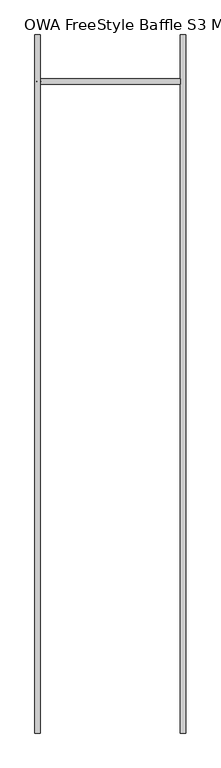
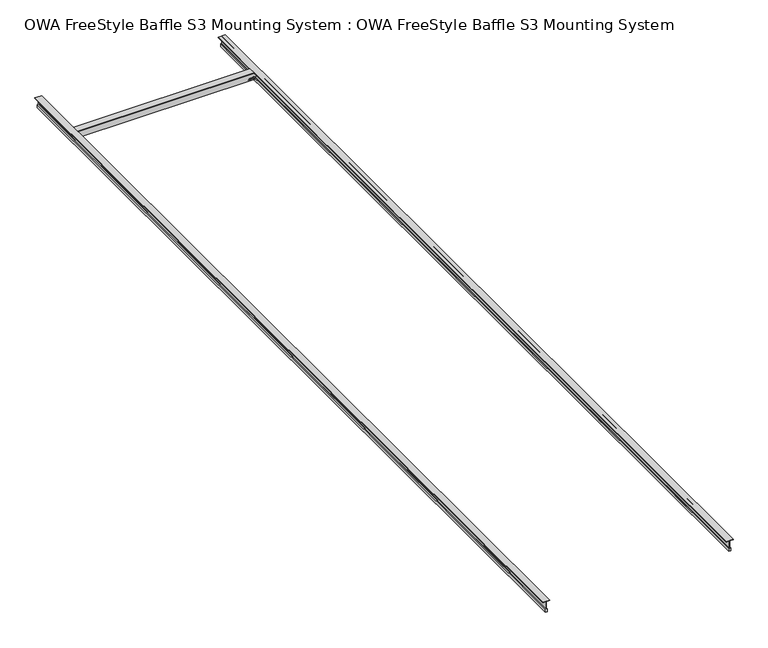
"""IFC4 building model written with IfcOpenShell, lengths in millimetres: proxy geometry, OWA FreeStyle Baffle S3 Mounting System : OWA FreeStyle Baffle S3 Mounting System."""

from ifc_helpers import new_model, si_unit, point, frame, frame_2d, origin, place, context, project, spatial, polyline, circle_curve, trimmed, segment, composite_curve, outline, extrude, source, transform, mapped, element, save
from ifc_brep_helpers import plane_surface, cylinder_surface, revolved_surface, advanced_brep


def owa_freestyle_baffle_s3_mounting_system_owa_freestyle_baffle_053d8222(model_context):
    return source(origin(), model_context, "Body", "SolidModel", [
        advanced_brep(
        [(-733.95, -201.5, 498.8), (-733.95, -201.5, 496.0), (-735.45, -201.5, 494.5), (-742.8857864, -201.5, 494.5), (-744.8857864, -201.5, 492.5), (-745.7, -201.5, 492.5), (-745.7, -201.5, 475.5), (-744.85, -201.5, 475.5), (-741.35, -201.5, 479.0), (-735.65, -201.5, 479.0), (-734.75, -201.5, 478.1), (-725.45, -201.5, 478.1), (-720.4764351, -201.5, 472.5865295), (-721.1954506, -201.5, 471.0754978), (-723.7247963, -201.5, 468.5461521), (-726.2283497, -201.5, 471.0497055), (-735.9464466, -201.5, 471.0497055), (-738.45, -201.5, 468.5461521), (-740.9535534, -201.5, 471.0497055), (-742.75, -201.5, 471.0497055), (-742.75, -201.5, 467.4497055), (-124.25, -201.5, 467.4497055), (-124.25, -201.5, 471.0497055), (-126.0464466, -201.5, 471.0497055), (-128.55, -201.5, 468.5461521), (-131.0535534, -201.5, 471.0497055), (-140.7716503, -201.5, 471.0497055), (-143.2752037, -201.5, 468.5461521), (-145.8045494, -201.5, 471.0754978), (-146.5235649, -201.5, 472.5865295), (-141.55, -201.5, 478.1), (-132.25, -201.5, 478.1), (-131.35, -201.5, 479.0), (-125.65, -201.5, 479.0), (-122.15, -201.5, 475.5), (-121.3, -201.5, 475.5), (-121.3, -201.5, 492.5), (-122.1142136, -201.5, 492.5), (-124.1142136, -201.5, 494.5), (-131.55, -201.5, 494.5), (-133.05, -201.5, 496.0), (-133.05, -201.5, 498.8), (-133.05, -198.5, 498.8), (-133.05, -198.5, 496.0), (-131.55, -198.5, 494.5), (-124.1142136, -198.5, 494.5), (-122.1142136, -198.5, 492.5), (-121.3, -198.5, 492.5), (-121.3, -198.5, 475.5), (-122.15, -198.5, 475.5), (-125.65, -198.5, 479.0), (-131.35, -198.5, 479.0), (-132.25, -198.5, 478.1), (-141.55, -198.5, 478.1), (-146.5235649, -198.5, 472.5865295), (-145.8045494, -198.5, 471.0754978), (-143.2752037, -198.5, 468.5461521), (-140.7716503, -198.5, 471.0497055), (-131.0535534, -198.5, 471.0497055), (-128.55, -198.5, 468.5461521), (-126.0464466, -198.5, 471.0497055), (-124.25, -198.5, 471.0497055), (-124.25, -198.5, 467.4497055), (-742.75, -198.5, 467.4497055), (-742.75, -198.5, 471.0497055), (-740.9535534, -198.5, 471.0497055), (-738.45, -198.5, 468.5461521), (-735.9464466, -198.5, 471.0497055), (-726.2283497, -198.5, 471.0497055), (-723.7247963, -198.5, 468.5461521), (-721.1954506, -198.5, 471.0754978), (-720.4764351, -198.5, 472.5865295), (-725.45, -198.5, 478.1), (-734.75, -198.5, 478.1), (-735.65, -198.5, 479.0), (-741.35, -198.5, 479.0), (-744.85, -198.5, 475.5), (-745.7, -198.5, 475.5), (-745.7, -198.5, 492.5), (-744.8857864, -198.5, 492.5), (-742.8857864, -198.5, 494.5), (-735.45, -198.5, 494.5), (-733.95, -198.5, 496.0), (-733.95, -198.5, 498.8), (-733.95, -212.0, 498.8), (-133.05, -212.0, 498.8), (-133.05, -212.0, 500.0), (-733.95, -212.0, 500.0), (-733.95, -188.0, 498.8), (-733.95, -188.0, 500.0), (-133.05, -188.0, 500.0), (-133.05, -188.0, 498.8)],
        [
            (0, 1),
            (1, 2, circle_curve(frame((-735.45, -201.5, 496.0), z_axis=(0.0, 1.0, 0.0), x_axis=(1.0, 0.0, 0.0)), 1.5)),
            (2, 3),
            (3, 4),
            (4, 5),
            (5, 6),
            (6, 7),
            (7, 8),
            (8, 9),
            (9, 10),
            (10, 11),
            (11, 12, circle_curve(frame((-725.45, -201.5, 473.1), z_axis=(0.0, 1.0, 0.0), x_axis=(1.0, 0.0, 0.0)), 5.0)),
            (12, 13, circle_curve(frame((-722.9632175, -201.5, 472.8432648), z_axis=(0.0, 1.0, 0.0), x_axis=(1.0, 0.0, 0.0)), 2.5)),
            (13, 14),
            (14, 15),
            (15, 16),
            (16, 17),
            (17, 18),
            (18, 19),
            (19, 20),
            (20, 21),
            (21, 22),
            (22, 23),
            (23, 24),
            (24, 25),
            (25, 26),
            (26, 27),
            (27, 28),
            (28, 29, circle_curve(frame((-144.0367825, -201.5, 472.8432648), z_axis=(0.0, 1.0, 0.0), x_axis=(-1.0, 0.0, 0.0)), 2.5)),
            (29, 30, circle_curve(frame((-141.55, -201.5, 473.1), z_axis=(0.0, 1.0, 0.0), x_axis=(-1.0, 0.0, 0.0)), 5.0)),
            (30, 31),
            (31, 32),
            (32, 33),
            (33, 34),
            (34, 35),
            (35, 36),
            (36, 37),
            (37, 38),
            (38, 39),
            (39, 40, circle_curve(frame((-131.55, -201.5, 496.0), z_axis=(0.0, 1.0, 0.0), x_axis=(-1.0, 0.0, 0.0)), 1.5)),
            (40, 41),
            (41, 0),
            (42, 43),
            (43, 44, circle_curve(frame((-131.55, -198.5, 496.0), z_axis=(0.0, -1.0, 0.0), x_axis=(-1.0, 0.0, 0.0)), 1.5)),
            (44, 45),
            (45, 46),
            (46, 47),
            (47, 48),
            (48, 49),
            (49, 50),
            (50, 51),
            (51, 52),
            (52, 53),
            (53, 54, circle_curve(frame((-141.55, -198.5, 473.1), z_axis=(0.0, -1.0, 0.0), x_axis=(-1.0, 0.0, 0.0)), 5.0)),
            (54, 55, circle_curve(frame((-144.0367825, -198.5, 472.8432648), z_axis=(0.0, -1.0, 0.0), x_axis=(-1.0, 0.0, 0.0)), 2.5)),
            (55, 56),
            (56, 57),
            (57, 58),
            (58, 59),
            (59, 60),
            (60, 61),
            (61, 62),
            (62, 63),
            (63, 64),
            (64, 65),
            (65, 66),
            (66, 67),
            (67, 68),
            (68, 69),
            (69, 70),
            (70, 71, circle_curve(frame((-722.9632175, -198.5, 472.8432648), z_axis=(0.0, -1.0, 0.0), x_axis=(1.0, 0.0, 0.0)), 2.5)),
            (71, 72, circle_curve(frame((-725.45, -198.5, 473.1), z_axis=(0.0, -1.0, 0.0), x_axis=(1.0, 0.0, 0.0)), 5.0)),
            (72, 73),
            (73, 74),
            (74, 75),
            (75, 76),
            (76, 77),
            (77, 78),
            (78, 79),
            (79, 80),
            (80, 81),
            (81, 82, circle_curve(frame((-735.45, -198.5, 496.0), z_axis=(0.0, -1.0, 0.0), x_axis=(1.0, 0.0, 0.0)), 1.5)),
            (82, 83),
            (83, 42),
            (84, 85),
            (85, 86),
            (86, 87),
            (87, 84),
            (88, 89),
            (89, 90),
            (90, 91),
            (91, 88),
            (84, 0),
            (41, 85),
            (91, 42),
            (83, 88),
            (20, 63),
            (62, 21),
            (86, 90),
            (89, 87),
            (82, 1),
            (81, 2),
            (80, 3),
            (79, 4),
            (78, 5),
            (77, 6),
            (76, 7),
            (75, 8),
            (74, 9),
            (73, 10),
            (72, 11),
            (71, 12),
            (70, 13),
            (69, 14),
            (68, 15),
            (67, 16),
            (66, 17),
            (65, 18),
            (64, 19),
            (61, 22),
            (60, 23),
            (59, 24),
            (58, 25),
            (57, 26),
            (56, 27),
            (55, 28),
            (54, 29),
            (53, 30),
            (52, 31),
            (51, 32),
            (50, 33),
            (49, 34),
            (48, 35),
            (47, 36),
            (46, 37),
            (45, 38),
            (44, 39),
            (43, 40),
        ],
        [
            plane_surface(frame((-733.95, -201.5, 496.0), z_axis=(0.0, -1.0, 0.0), x_axis=(0.0, 0.0, -1.0))),
            plane_surface(frame((-733.95, -198.5, 496.0), z_axis=(0.0, 1.0, 0.0), x_axis=(0.0, 0.0, 1.0))),
            plane_surface(frame((-133.0, -212.0, 498.8), z_axis=(0.0, -1.0, 0.0), x_axis=(1.0, 0.0, 0.0))),
            plane_surface(frame((-133.0, -188.0, 498.8), z_axis=(0.0, 1.0, 0.0), x_axis=(-1.0, 0.0, 0.0))),
            plane_surface(frame((-733.95, -212.0, 498.8), z_axis=(0.0, 0.0, -1.0), x_axis=(0.0, 1.0, 0.0))),
            plane_surface(frame((-742.75, -201.5, 467.4497055), z_axis=(0.0, 0.0, -1.0), x_axis=(0.0, 1.0, 0.0))),
            plane_surface(frame((-133.05, -212.0, 500.0), z_axis=(0.0, 0.0, 1.0), x_axis=(0.0, 1.0, 0.0))),
            plane_surface(frame((-733.95, -201.5, 498.8), z_axis=(-1.0, 0.0, 0.0), x_axis=(0.0, 1.0, 0.0))),
            revolved_surface(polyline([(-733.95, -198.5, 496.0), (-733.95, -201.5, 496.0)]), (-735.45, -198.5, 496.0), (0.0, 1.0, 0.0)),
            plane_surface(frame((-735.45, -201.5, 494.5), z_axis=(0.0, 0.0, 1.0), x_axis=(0.0, 1.0, 0.0))),
            plane_surface(frame((-742.8857864, -201.5, 494.5), z_axis=(-0.7071067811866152, 0.0, 0.7071067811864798), x_axis=(0.0, 1.0, 0.0))),
            plane_surface(frame((-744.8857864, -201.5, 492.5), z_axis=(0.0, 0.0, 1.0), x_axis=(0.0, 1.0, 0.0))),
            plane_surface(frame((-745.7, -201.5, 492.5), z_axis=(-1.0, 0.0, 0.0), x_axis=(0.0, 1.0, 0.0))),
            plane_surface(frame((-745.7, -201.5, 475.5), z_axis=(0.0, 0.0, -1.0), x_axis=(0.0, 1.0, 0.0))),
            plane_surface(frame((-744.85, -201.5, 475.5), z_axis=(0.707106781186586, 0.0, -0.707106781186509), x_axis=(0.0, 1.0, 0.0))),
            plane_surface(frame((-741.35, -201.5, 479.0), z_axis=(0.0, 0.0, -1.0), x_axis=(0.0, 1.0, 0.0))),
            plane_surface(frame((-735.65, -201.5, 479.0), z_axis=(-0.707106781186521, 0.0, -0.7071067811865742), x_axis=(0.0, 1.0, 0.0))),
            plane_surface(frame((-734.75, -201.5, 478.1), z_axis=(0.0, 0.0, -1.0), x_axis=(0.0, 1.0, 0.0))),
            revolved_surface(polyline([(-720.45, -198.5, 473.1), (-720.45, -201.5, 473.1)]), (-725.45, -198.5, 473.1), (0.0, 1.0, 0.0)),
            revolved_surface(polyline([(-720.4632175, -198.5, 472.8432648), (-720.4632175, -201.5, 472.8432648)]), (-722.9632175, -198.5, 472.8432648), (0.0, 1.0, 0.0)),
            plane_surface(frame((-721.1954506, -201.5, 471.0754978), z_axis=(-0.707106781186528, 0.0, 0.7071067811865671), x_axis=(0.0, 1.0, 0.0))),
            plane_surface(frame((-723.7247963, -201.5, 468.5461521), z_axis=(0.7071067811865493, 0.0, 0.7071067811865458), x_axis=(0.0, 1.0, 0.0))),
            plane_surface(frame((-726.2283497, -201.5, 471.0497055), z_axis=(0.0, 0.0, 1.0), x_axis=(0.0, 1.0, 0.0))),
            plane_surface(frame((-735.9464466, -201.5, 471.0497055), z_axis=(-0.7071067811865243, 0.0, 0.7071067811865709), x_axis=(0.0, 1.0, 0.0))),
            plane_surface(frame((-738.45, -201.5, 468.5461521), z_axis=(0.7071067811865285, 0.0, 0.7071067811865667), x_axis=(0.0, 1.0, 0.0))),
            plane_surface(frame((-740.9535534, -201.5, 471.0497055), z_axis=(0.0, 0.0, 1.0), x_axis=(0.0, 1.0, 0.0))),
            plane_surface(frame((-742.75, -201.5, 471.0497055), z_axis=(-1.0, 0.0, 0.0), x_axis=(0.0, 1.0, 0.0))),
            plane_surface(frame((-124.25, -201.5, 467.4497055), z_axis=(1.0, 0.0, 0.0), x_axis=(0.0, 1.0, 0.0))),
            plane_surface(frame((-124.25, -201.5, 471.0497055), z_axis=(0.0, 0.0, 1.0), x_axis=(0.0, 1.0, 0.0))),
            plane_surface(frame((-126.0464466, -201.5, 471.0497055), z_axis=(-0.7071067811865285, 0.0, 0.7071067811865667), x_axis=(0.0, 1.0, 0.0))),
            plane_surface(frame((-128.55, -201.5, 468.5461521), z_axis=(0.7071067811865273, 0.0, 0.7071067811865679), x_axis=(0.0, 1.0, 0.0))),
            plane_surface(frame((-131.0535534, -201.5, 471.0497055), z_axis=(0.0, 0.0, 1.0), x_axis=(0.0, 1.0, 0.0))),
            plane_surface(frame((-140.7716503, -201.5, 471.0497055), z_axis=(-0.7071067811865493, 0.0, 0.7071067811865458), x_axis=(0.0, 1.0, 0.0))),
            plane_surface(frame((-143.2752037, -201.5, 468.5461521), z_axis=(0.7071067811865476, 0.0, 0.7071067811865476), x_axis=(0.0, 1.0, 0.0))),
            revolved_surface(polyline([(-146.5367825, -198.5, 472.8432648), (-146.5367825, -201.5, 472.8432648)]), (-144.0367825, -198.5, 472.8432648), (0.0, 1.0, 0.0)),
            revolved_surface(polyline([(-146.55, -198.5, 473.1), (-146.55, -201.5, 473.1)]), (-141.55, -198.5, 473.1), (0.0, 1.0, 0.0)),
            plane_surface(frame((-141.55, -201.5, 478.1), z_axis=(0.0, 0.0, -1.0), x_axis=(0.0, 1.0, 0.0))),
            plane_surface(frame((-132.25, -201.5, 478.1), z_axis=(0.707106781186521, 0.0, -0.7071067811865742), x_axis=(0.0, 1.0, 0.0))),
            plane_surface(frame((-131.35, -201.5, 479.0), z_axis=(0.0, 0.0, -1.0), x_axis=(0.0, 1.0, 0.0))),
            plane_surface(frame((-125.65, -201.5, 479.0), z_axis=(-0.7071067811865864, 0.0, -0.7071067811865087), x_axis=(0.0, 1.0, 0.0))),
            plane_surface(frame((-122.15, -201.5, 475.5), z_axis=(0.0, 0.0, -1.0), x_axis=(0.0, 1.0, 0.0))),
            plane_surface(frame((-121.3, -201.5, 475.5), z_axis=(1.0, 0.0, 0.0), x_axis=(0.0, 1.0, 0.0))),
            plane_surface(frame((-121.3, -201.5, 492.5), z_axis=(0.0, 0.0, 1.0), x_axis=(0.0, 1.0, 0.0))),
            plane_surface(frame((-122.1142136, -201.5, 492.5), z_axis=(0.7071067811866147, 0.0, 0.7071067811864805), x_axis=(0.0, 1.0, 0.0))),
            plane_surface(frame((-124.1142136, -201.5, 494.5), z_axis=(0.0, 0.0, 1.0), x_axis=(0.0, 1.0, 0.0))),
            revolved_surface(polyline([(-133.05, -198.5, 496.0), (-133.05, -201.5, 496.0)]), (-131.55, -198.5, 496.0), (0.0, 1.0, 0.0)),
            plane_surface(frame((-133.05, -201.5, 496.0), z_axis=(1.0, 0.0, 0.0), x_axis=(0.0, 1.0, 0.0))),
        ],
        [
            (0, [[1, 2, 3, 4, 5, 6, 7, 8, 9, 10, 11, 12, 13, 14, 15, 16, 17, 18, 19, 20, 21, 22, 23, 24, 25, 26, 27, 28, 29, 30, 31, 32, 33, 34, 35, 36, 37, 38, 39, 40, 41, 42]]),
            (1, [[43, 44, 45, 46, 47, 48, 49, 50, 51, 52, 53, 54, 55, 56, 57, 58, 59, 60, 61, 62, 63, 64, 65, 66, 67, 68, 69, 70, 71, 72, 73, 74, 75, 76, 77, 78, 79, 80, 81, 82, 83, 84]]),
            (2, [[85, 86, 87, 88]]),
            (3, [[89, 90, 91, 92]]),
            (4, [[-85, 93, -42, 94]]),
            (4, [[-92, 95, -84, 96]]),
            (5, [[-21, 97, -63, 98]]),
            (6, [[-87, 99, -90, 100]]),
            (7, [[-1, -93, -88, -100, -89, -96, -83, 101]]),
            (8, [[-2, -101, -82, 102]]),
            (9, [[-3, -102, -81, 103]]),
            (10, [[-4, -103, -80, 104]]),
            (11, [[-5, -104, -79, 105]]),
            (12, [[-6, -105, -78, 106]]),
            (13, [[-7, -106, -77, 107]]),
            (14, [[-8, -107, -76, 108]]),
            (15, [[-9, -108, -75, 109]]),
            (16, [[-10, -109, -74, 110]]),
            (17, [[-11, -110, -73, 111]]),
            (18, [[-12, -111, -72, 112]]),
            (19, [[-13, -112, -71, 113]]),
            (20, [[-14, -113, -70, 114]]),
            (21, [[-15, -114, -69, 115]]),
            (22, [[-16, -115, -68, 116]]),
            (23, [[-17, -116, -67, 117]]),
            (24, [[-18, -117, -66, 118]]),
            (25, [[-19, -118, -65, 119]]),
            (26, [[-20, -119, -64, -97]]),
            (27, [[-22, -98, -62, 120]]),
            (28, [[-23, -120, -61, 121]]),
            (29, [[-24, -121, -60, 122]]),
            (30, [[-25, -122, -59, 123]]),
            (31, [[-26, -123, -58, 124]]),
            (32, [[-27, -124, -57, 125]]),
            (33, [[-28, -125, -56, 126]]),
            (34, [[-29, -126, -55, 127]]),
            (35, [[-30, -127, -54, 128]]),
            (36, [[-31, -128, -53, 129]]),
            (37, [[-32, -129, -52, 130]]),
            (38, [[-33, -130, -51, 131]]),
            (39, [[-34, -131, -50, 132]]),
            (40, [[-35, -132, -49, 133]]),
            (41, [[-36, -133, -48, 134]]),
            (42, [[-37, -134, -47, 135]]),
            (43, [[-38, -135, -46, 136]]),
            (44, [[-39, -136, -45, 137]]),
            (45, [[-40, -137, -44, 138]]),
            (46, [[-41, -138, -43, -95, -91, -99, -86, -94]]),
        ],
    ),
        advanced_brep(
        [(-750.95, -201.5, 493.7), (-750.95, -201.5, 481.3), (-748.8268982, -201.5, 479.3037921), (-747.2752053, -201.5, 477.844841), (-747.2752053, -201.5, 475.5), (-746.3, -201.5, 475.5), (-746.3, -201.5, 493.7), (-750.95, -198.5, 493.7), (-746.3, -198.5, 493.7), (-746.3, -198.5, 475.5), (-747.2752053, -198.5, 475.5), (-747.2752053, -198.5, 477.844841), (-748.8268982, -198.5, 479.3037921), (-750.95, -198.5, 481.3)],
        [
            (0, 1),
            (1, 2, circle_curve(frame((-748.95, -201.5, 481.3), z_axis=(0.0, -1.0, 0.0), x_axis=(1.0, 0.0, 0.0)), 2.0)),
            (2, 3, circle_curve(frame((-748.7369279, -201.5, 477.844841), z_axis=(0.0, 1.0, 0.0), x_axis=(-1.0, 0.0, 0.0)), 1.4617226)),
            (3, 4),
            (4, 5),
            (5, 6),
            (6, 0, circle_curve(frame((-748.625, -201.5, 493.7), z_axis=(0.0, -1.0, 0.0), x_axis=(-1.0, 0.0, 0.0)), 2.325)),
            (7, 8, circle_curve(frame((-748.625, -198.5, 493.7), z_axis=(0.0, 1.0, 0.0), x_axis=(-1.0, 0.0, 0.0)), 2.325)),
            (8, 9),
            (9, 10),
            (10, 11),
            (11, 12, circle_curve(frame((-748.7369279, -198.5, 477.844841), z_axis=(0.0, -1.0, 0.0), x_axis=(-1.0, 0.0, 0.0)), 1.4617226)),
            (12, 13, circle_curve(frame((-748.95, -198.5, 481.3), z_axis=(0.0, 1.0, 0.0), x_axis=(1.0, 0.0, 0.0)), 2.0)),
            (13, 7),
            (0, 7),
            (13, 1),
            (12, 2),
            (11, 3),
            (10, 4),
            (9, 5),
            (8, 6),
        ],
        [
            plane_surface(frame((-733.95, -201.5, 496.0), z_axis=(0.0, -1.0, 0.0), x_axis=(0.0, 0.0, -1.0))),
            plane_surface(frame((-733.95, -198.5, 496.0), z_axis=(0.0, 1.0, 0.0), x_axis=(0.0, 0.0, 1.0))),
            plane_surface(frame((-750.95, -201.5, 493.7), z_axis=(-1.0, 0.0, 0.0), x_axis=(0.0, 1.0, 0.0))),
            cylinder_surface(frame((-748.95, -200.0, 481.3), z_axis=(0.0, -1.0, 0.0), x_axis=(1.0, 0.0, 0.0)), 2.0),
            revolved_surface(polyline([(-750.1986505, -198.5, 477.844841), (-750.1986505, -201.5, 477.844841)]), (-748.7369279, -200.0, 477.844841), (0.0, 1.0, 0.0)),
            plane_surface(frame((-747.2752053, -201.5, 477.844841), z_axis=(-1.0, 0.0, 0.0), x_axis=(0.0, 1.0, 0.0))),
            plane_surface(frame((-747.2752053, -201.5, 475.5), z_axis=(0.0, 0.0, -1.0), x_axis=(0.0, 1.0, 0.0))),
            plane_surface(frame((-746.3, -201.5, 475.5), z_axis=(1.0, 0.0, 0.0), x_axis=(0.0, 1.0, 0.0))),
            cylinder_surface(frame((-748.625, -200.0, 493.7), z_axis=(0.0, -1.0, 0.0), x_axis=(-1.0, 0.0, 0.0)), 2.325),
        ],
        [
            (0, [[1, 2, 3, 4, 5, 6, 7]]),
            (1, [[8, 9, 10, 11, 12, 13, 14]]),
            (2, [[-1, 15, -14, 16]]),
            (3, [[-2, -16, -13, 17]]),
            (4, [[-3, -17, -12, 18]]),
            (5, [[-4, -18, -11, 19]]),
            (6, [[-5, -19, -10, 20]]),
            (7, [[-6, -20, -9, 21]]),
            (8, [[-7, -21, -8, -15]]),
        ],
    ),
        advanced_brep(
        [(-116.05, -201.5, 493.7), (-120.7, -201.5, 493.7), (-120.7, -201.5, 475.5), (-119.7247947, -201.5, 475.5), (-119.7247947, -201.5, 477.844841), (-118.1731018, -201.5, 479.3037921), (-116.05, -201.5, 481.3), (-116.05, -198.5, 493.7), (-116.05, -198.5, 481.3), (-118.1731018, -198.5, 479.3037921), (-119.7247947, -198.5, 477.844841), (-119.7247947, -198.5, 475.5), (-120.7, -198.5, 475.5), (-120.7, -198.5, 493.7)],
        [
            (0, 1, circle_curve(frame((-118.375, -201.5, 493.7), z_axis=(0.0, -1.0, 0.0), x_axis=(1.0, 0.0, 0.0)), 2.325)),
            (1, 2),
            (2, 3),
            (3, 4),
            (4, 5, circle_curve(frame((-118.2630721, -201.5, 477.844841), z_axis=(0.0, 1.0, 0.0), x_axis=(1.0, 0.0, 0.0)), 1.4617226)),
            (5, 6, circle_curve(frame((-118.05, -201.5, 481.3), z_axis=(0.0, -1.0, 0.0), x_axis=(-1.0, 0.0, 0.0)), 2.0)),
            (6, 0),
            (7, 8),
            (8, 9, circle_curve(frame((-118.05, -198.5, 481.3), z_axis=(0.0, 1.0, 0.0), x_axis=(-1.0, 0.0, 0.0)), 2.0)),
            (9, 10, circle_curve(frame((-118.2630721, -198.5, 477.844841), z_axis=(0.0, -1.0, 0.0), x_axis=(1.0, 0.0, 0.0)), 1.4617226)),
            (10, 11),
            (11, 12),
            (12, 13),
            (13, 7, circle_curve(frame((-118.375, -198.5, 493.7), z_axis=(0.0, 1.0, 0.0), x_axis=(1.0, 0.0, 0.0)), 2.325)),
            (0, 7),
            (13, 1),
            (12, 2),
            (11, 3),
            (10, 4),
            (9, 5),
            (8, 6),
        ],
        [
            plane_surface(frame((-733.95, -201.5, 496.0), z_axis=(0.0, -1.0, 0.0), x_axis=(0.0, 0.0, -1.0))),
            plane_surface(frame((-733.95, -198.5, 496.0), z_axis=(0.0, 1.0, 0.0), x_axis=(0.0, 0.0, 1.0))),
            cylinder_surface(frame((-118.375, -200.0, 493.7), z_axis=(0.0, -1.0, 0.0), x_axis=(1.0, 0.0, 0.0)), 2.325),
            plane_surface(frame((-120.7, -201.5, 493.7), z_axis=(-1.0, 0.0, 0.0), x_axis=(0.0, 1.0, 0.0))),
            plane_surface(frame((-120.7, -201.5, 475.5), z_axis=(0.0, 0.0, -1.0), x_axis=(0.0, 1.0, 0.0))),
            plane_surface(frame((-119.7247947, -201.5, 475.5), z_axis=(1.0, 0.0, 0.0), x_axis=(0.0, 1.0, 0.0))),
            revolved_surface(polyline([(-116.8013495, -198.5, 477.844841), (-116.8013495, -201.5, 477.844841)]), (-118.2630721, -200.0, 477.844841), (0.0, 1.0, 0.0)),
            cylinder_surface(frame((-118.05, -200.0, 481.3), z_axis=(0.0, -1.0, 0.0), x_axis=(-1.0, 0.0, 0.0)), 2.0),
            plane_surface(frame((-116.05, -201.5, 481.3), z_axis=(1.0, 0.0, 0.0), x_axis=(0.0, 1.0, 0.0))),
        ],
        [
            (0, [[1, 2, 3, 4, 5, 6, 7]]),
            (1, [[8, 9, 10, 11, 12, 13, 14]]),
            (2, [[-1, 15, -14, 16]]),
            (3, [[-2, -16, -13, 17]]),
            (4, [[-3, -17, -12, 18]]),
            (5, [[-4, -18, -11, 19]]),
            (6, [[-5, -19, -10, 20]]),
            (7, [[-6, -20, -9, 21]]),
            (8, [[-7, -21, -8, -15]]),
        ],
    ),
        extrude(outline(composite_curve([segment(polyline([(498.8, -746.2949336), (473.0002945, -746.2949336), (473.0002945, -749.2449336), (462.0, -749.2449336), (462.0, -742.7449336), (472.0002945, -742.7449336)]), True, "CONTINUOUS"), segment(trimmed(circle_curve(frame_2d((472.0002945, -743.7449336)), 1.0), [point((472.0002945, -742.7449336))], [point((473.0002945, -743.7449336))], False, "CARTESIAN"), True, "CONTINUOUS"), segment(polyline([(473.0002945, -743.7449336), (473.0002945, -745.6949336), (498.8, -745.6949336), (498.8, -733.9949336), (500.0, -733.9949336), (500.0, -757.9949336), (498.8, -757.9949336), (498.8, -746.2949336)]), True, "CONTINUOUS")], self_intersect=False)), frame((0.0, -3000.0, 0.0), z_axis=(0.0, 1.0, 0.0), x_axis=(0.0, 0.0, 1.0)), (0.0, 0.0, 1.0), 3000.0),
        extrude(outline(composite_curve([segment(polyline([(498.8, -120.7050664), (498.8, -109.0050664), (500.0, -109.0050664), (500.0, -133.0050664), (498.8, -133.0050664), (498.8, -121.3050664), (473.0002945, -121.3050664), (473.0002945, -123.2550664)]), True, "CONTINUOUS"), segment(trimmed(circle_curve(frame_2d((472.0002945, -123.2550664)), 1.0), [point((473.0002945, -123.2550664))], [point((472.0002945, -124.2550664))], False, "CARTESIAN"), True, "CONTINUOUS"), segment(polyline([(472.0002945, -124.2550664), (462.0, -124.2550664), (462.0, -117.7550664), (473.0002945, -117.7550664), (473.0002945, -120.7050664), (498.8, -120.7050664)]), True, "CONTINUOUS")], self_intersect=False)), frame((0.0, -3000.0, 0.0), z_axis=(0.0, 1.0, 0.0), x_axis=(0.0, 0.0, 1.0)), (0.0, 0.0, 1.0), 3000.0),
    ])


if __name__ == "__main__":
    model = new_model("IFC4")
    model_context = context("Model", 3, world=origin())
    ifc_project = project(units=[si_unit("LENGTHUNIT", "METRE", prefix="MILLI")], contexts=[model_context])
    site = spatial("IfcSite", under=ifc_project)
    building = spatial("IfcBuilding", under=site)
    placement = place(None, origin())
    owa_freestyle_baffle_s3_mounting_system_owa_freestyle_baffle_shape = owa_freestyle_baffle_s3_mounting_system_owa_freestyle_baffle_053d8222(model_context)
    element("IfcBuildingElementProxy", 1, Name="OWA FreeStyle Baffle S3 Mounting System : OWA FreeStyle Baffle S3 Mounting System", ObjectType="OWA FreeStyle Baffle S3 Mounting System : OWA FreeStyle Baffle S3 Mounting System", at=placement, inside=building, context=model_context, shape_type="MappedRepresentation", body=[
        mapped(owa_freestyle_baffle_s3_mounting_system_owa_freestyle_baffle_shape, transform((0.0, 0.0, 0.0), x_axis=(1.0, 0.0, 0.0), y_axis=(0.0, 1.0, 0.0), z_axis=(0.0, 0.0, 1.0))),
    ])
    save(model, "model.ifc")
